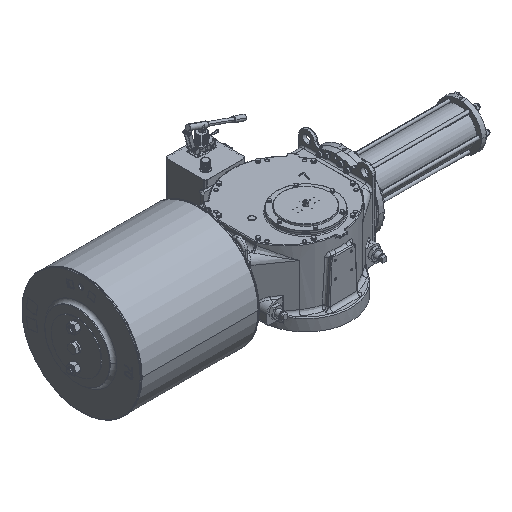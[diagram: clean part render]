
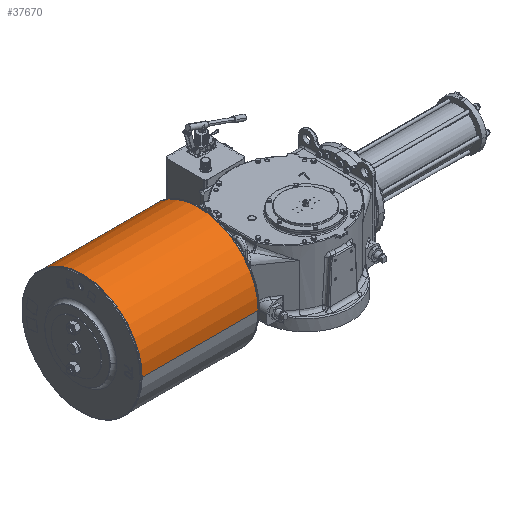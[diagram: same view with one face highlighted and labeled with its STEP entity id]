
A CAD part, isometric view. The second image highlights one B-rep face of the part: STEP entity #37670.
In plain terms, the highlighted cylindrical face has radius 369 mm (diameter 738 mm), a partial arc.
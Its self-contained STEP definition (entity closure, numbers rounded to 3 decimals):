
#1498 = CIRCLE ( 'NONE', #49422, 369. ) ;
#4282 = DIRECTION ( 'NONE',  ( 1., 0., 0. ) ) ;
#7883 = FACE_OUTER_BOUND ( 'NONE', #140812, .T. ) ;
#12324 = CARTESIAN_POINT ( 'NONE',  ( -1181., -166., 168. ) ) ;
#15245 = AXIS2_PLACEMENT_3D ( 'NONE', #126459, #36365, #46914 ) ;
#15564 = LINE ( 'NONE', #107129, #114758 ) ;
#22279 = AXIS2_PLACEMENT_3D ( 'NONE', #111449, #133228, #134703 ) ;
#27714 = VERTEX_POINT ( 'NONE', #97108 ) ;
#33250 = LINE ( 'NONE', #35452, #96783 ) ;
#35090 = VERTEX_POINT ( 'NONE', #12324 ) ;
#35452 = CARTESIAN_POINT ( 'NONE',  ( -2224.69, 572., 168. ) ) ;
#36365 = DIRECTION ( 'NONE',  ( 1., 0., 0. ) ) ;
#37670 = ADVANCED_FACE ( 'NONE', ( #7883 ), #109979, .T. ) ;
#40999 = EDGE_CURVE ( 'NONE', #27714, #69548, #33250, .T. ) ;
#46914 = DIRECTION ( 'NONE',  ( 0., -1., 0. ) ) ;
#49286 = CARTESIAN_POINT ( 'NONE',  ( -461., 203., 168. ) ) ;
#49422 = AXIS2_PLACEMENT_3D ( 'NONE', #49286, #118294, #105567 ) ;
#49674 = VERTEX_POINT ( 'NONE', #97762 ) ;
#66555 = ORIENTED_EDGE ( 'NONE', *, *, #69400, .F. ) ;
#69400 = EDGE_CURVE ( 'NONE', #69548, #49674, #1498, .T. ) ;
#69548 = VERTEX_POINT ( 'NONE', #86746 ) ;
#72650 = ORIENTED_EDGE ( 'NONE', *, *, #96901, .T. ) ;
#79020 = DIRECTION ( 'NONE',  ( 1., 0., 0. ) ) ;
#79974 = CIRCLE ( 'NONE', #15245, 369. ) ;
#81120 = ORIENTED_EDGE ( 'NONE', *, *, #133664, .T. ) ;
#86746 = CARTESIAN_POINT ( 'NONE',  ( -461., 572., 168. ) ) ;
#96783 = VECTOR ( 'NONE', #79020, 1000. ) ;
#96901 = EDGE_CURVE ( 'NONE', #35090, #49674, #15564, .T. ) ;
#97108 = CARTESIAN_POINT ( 'NONE',  ( -1181., 572., 168. ) ) ;
#97762 = CARTESIAN_POINT ( 'NONE',  ( -461., -166., 168. ) ) ;
#105567 = DIRECTION ( 'NONE',  ( 0., 1., 0. ) ) ;
#107129 = CARTESIAN_POINT ( 'NONE',  ( -2224.69, -166., 168. ) ) ;
#109979 = CYLINDRICAL_SURFACE ( 'NONE', #22279, 369. ) ;
#111449 = CARTESIAN_POINT ( 'NONE',  ( -2224.69, 203., 168. ) ) ;
#114758 = VECTOR ( 'NONE', #4282, 1000. ) ;
#118294 = DIRECTION ( 'NONE',  ( 1., 0., 0. ) ) ;
#126459 = CARTESIAN_POINT ( 'NONE',  ( -1181., 203., 168. ) ) ;
#133228 = DIRECTION ( 'NONE',  ( 1., 0., 0. ) ) ;
#133664 = EDGE_CURVE ( 'NONE', #27714, #35090, #79974, .T. ) ;
#134703 = DIRECTION ( 'NONE',  ( 0., 1., 0. ) ) ;
#139280 = ORIENTED_EDGE ( 'NONE', *, *, #40999, .F. ) ;
#140812 = EDGE_LOOP ( 'NONE', ( #81120, #72650, #66555, #139280 ) ) ;
